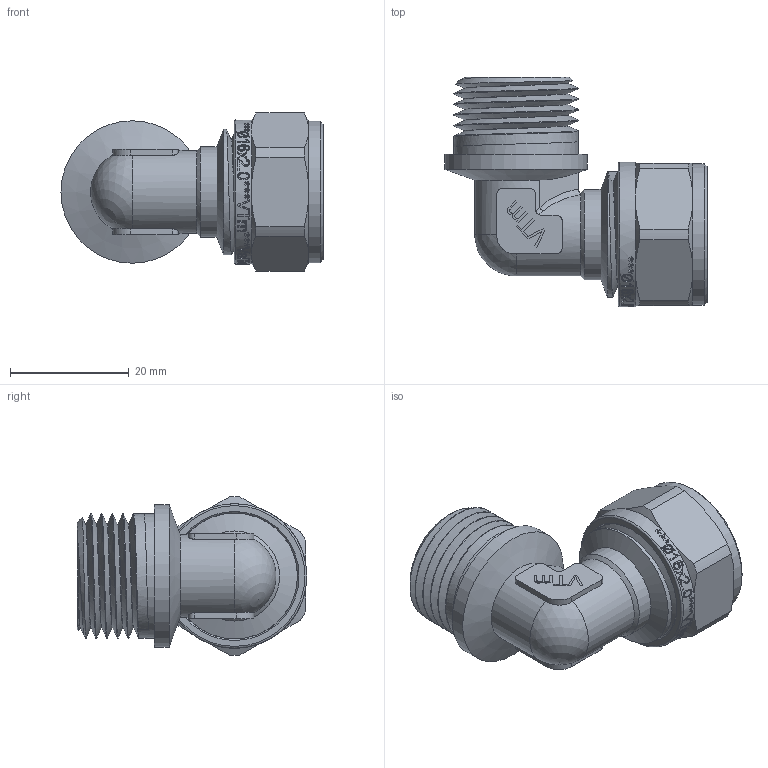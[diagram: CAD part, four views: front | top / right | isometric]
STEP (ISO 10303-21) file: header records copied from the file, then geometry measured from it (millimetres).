
FILE_DESCRIPTION(/* description */ (''),/* implementation_level */ '2;1');
FILE_NAME(/* name */ 'F:\Артём\00000\Работа удаленка\Обжимные фитинги\VTm.353.N.001604.stp',/* time_stamp */ '2020-08-10T13:08:43+03:00',/* author */ ('almis'),/* organization */ (''),/* preprocessor_version */ 'ST-DEVELOPER v18',/* originating_system */ 'Autodesk Inventor 2020',/* authorisation */ '');
FILE_SCHEMA (('AUTOMOTIVE_DESIGN { 1 0 10303 214 3 1 1 }'));
Length unit declared in the file: millimetre
Products named in the file (1): VTm.301.N.001604
Bounding box: 44.17 x 38.66 x 26.72 mm (x, y, z)
Volume: 9797.5 mm3; surface area: 10258.1 mm2
Topology: 1 solids, 1 shells, 787 faces, 2208 edges, 1480 vertices
Faces by surface type: bspline 368, plane 259, cylinder 105, cone 27, torus 26, sphere 2
Full cylindrical faces by diameter (mm): 8.2 x1, 9.6 x2, 10 x1, 11.95 x4, 15.2 x1, 15.5 x1, 16.324 x4, 16.4 x1, 16.924 x5, 17.324 x1, 17.4 x6, 17.6 x2, 18.924 x1, 21 x5, 21.2 x3, 23.824 x1, 24 x1, 24.324 x1
Entity records: 33341 total; most frequent: CARTESIAN_POINT 15357, ORIENTED_EDGE 4412, DIRECTION 2590, EDGE_CURVE 2206, VERTEX_POINT 1480, LINE 1000, VECTOR 1000, EDGE_LOOP 852
